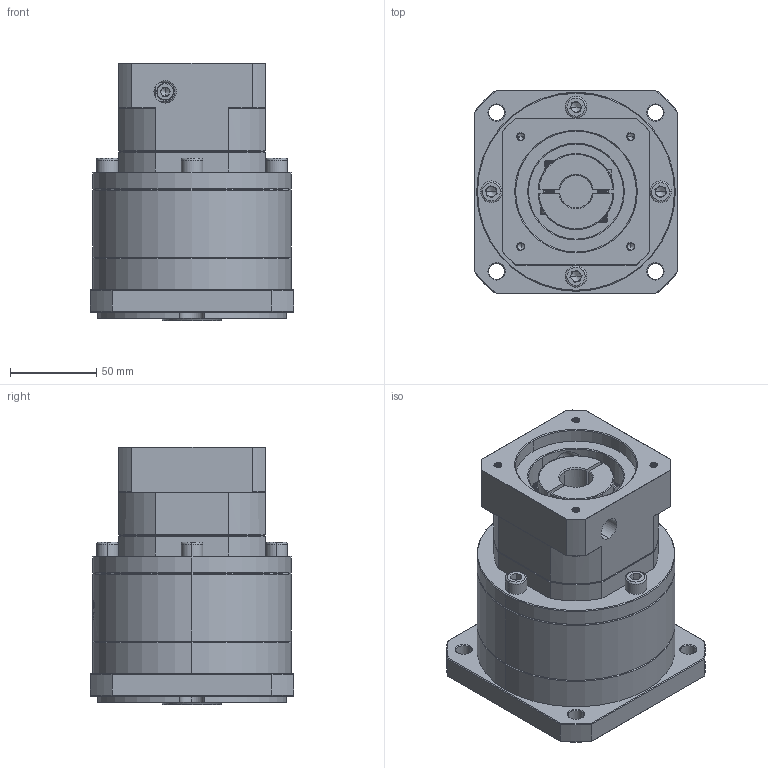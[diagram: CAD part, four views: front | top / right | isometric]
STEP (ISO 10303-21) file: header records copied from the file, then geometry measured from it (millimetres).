
FILE_DESCRIPTION (( 'STEP AP214' ), '1' );
FILE_NAME ('ZF120A-K25-L2-P2-19-70-90-M5.step', '2023-08-27T06:02:19', ( '' ), ( '' ), 'SwSTEP 2.0', 'SolidWorks 2016', '' );
FILE_SCHEMA (( 'AUTOMOTIVE_DESIGN' ));
Length unit declared in the file: millimetre
Products named in the file (1): ZF120A-K25-L2-P2-19-70-90-M5
Bounding box: 118 x 118 x 149 mm (x, y, z)
Volume: 1232950.7 mm3; surface area: 123671.8 mm2
Topology: 5 solids, 5 shells, 2125 faces, 5685 edges, 3656 vertices
Faces by surface type: plane 1047, bspline 425, cylinder 363, cone 290
Entity records: 114851 total; most frequent: CARTESIAN_POINT 43744, ORIENTED_EDGE 11314, DIRECTION 8061, EDGE_CURVE 5657, VERTEX_POINT 3656, VECTOR 3027, LINE 3027, AXIS2_PLACEMENT_3D 2517
